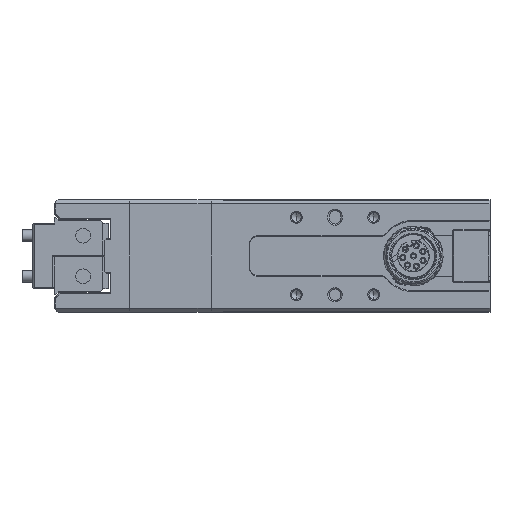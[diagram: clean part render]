
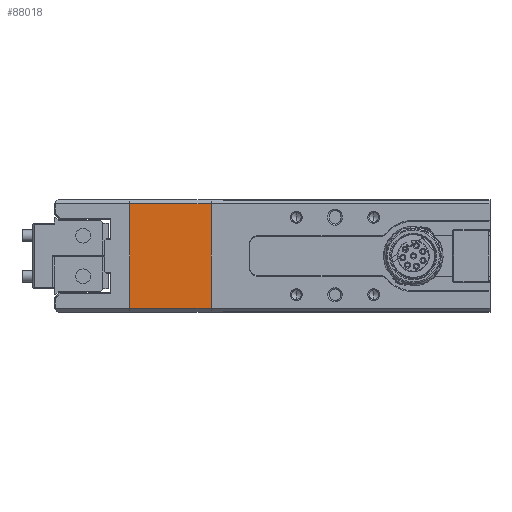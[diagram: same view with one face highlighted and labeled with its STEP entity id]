
A CAD part, left-side view. The second image highlights one B-rep face of the part: STEP entity #88018.
In plain terms, the highlighted planar face has unit normal (-1, 0, 0).
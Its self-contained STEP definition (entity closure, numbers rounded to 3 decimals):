
#2039 = FACE_OUTER_BOUND ( 'NONE', #27720, .T. ) ;
#2210 = VERTEX_POINT ( 'NONE', #51136 ) ;
#3247 = VERTEX_POINT ( 'NONE', #29796 ) ;
#6072 = AXIS2_PLACEMENT_3D ( 'NONE', #45470, #60550, #53208 ) ;
#6825 = LINE ( 'NONE', #44326, #58228 ) ;
#7951 = VERTEX_POINT ( 'NONE', #64464 ) ;
#9183 = CARTESIAN_POINT ( 'NONE',  ( -51.07, 71.477, -13.5 ) ) ;
#13696 = ORIENTED_EDGE ( 'NONE', *, *, #81281, .T. ) ;
#13761 = CARTESIAN_POINT ( 'NONE',  ( -51.07, 71.477, -12. ) ) ;
#15667 = DIRECTION ( 'NONE',  ( 0., 0., 1. ) ) ;
#16897 = DIRECTION ( 'NONE',  ( 0., 0., 1. ) ) ;
#17714 = VERTEX_POINT ( 'NONE', #9183 ) ;
#20957 = DIRECTION ( 'NONE',  ( 0., 1., 0. ) ) ;
#22537 = VECTOR ( 'NONE', #16897, 1000. ) ;
#27720 = EDGE_LOOP ( 'NONE', ( #13696, #33790, #37966, #46813 ) ) ;
#29796 = CARTESIAN_POINT ( 'NONE',  ( -51.07, 50.477, 13.5 ) ) ;
#30404 = LINE ( 'NONE', #45538, #81782 ) ;
#32026 = EDGE_CURVE ( 'NONE', #2210, #3247, #53470, .T. ) ;
#33790 = ORIENTED_EDGE ( 'NONE', *, *, #32026, .T. ) ;
#37966 = ORIENTED_EDGE ( 'NONE', *, *, #89369, .T. ) ;
#39778 = EDGE_CURVE ( 'NONE', #17714, #7951, #58625, .T. ) ;
#44326 = CARTESIAN_POINT ( 'NONE',  ( -51.07, 62.977, 13.5 ) ) ;
#45470 = CARTESIAN_POINT ( 'NONE',  ( -51.07, 62.977, -13. ) ) ;
#45538 = CARTESIAN_POINT ( 'NONE',  ( -51.07, 62.977, -13.5 ) ) ;
#46813 = ORIENTED_EDGE ( 'NONE', *, *, #39778, .F. ) ;
#51136 = CARTESIAN_POINT ( 'NONE',  ( -51.07, 50.477, -13.5 ) ) ;
#53208 = DIRECTION ( 'NONE',  ( 0., 0., -1. ) ) ;
#53470 = LINE ( 'NONE', #69552, #22537 ) ;
#58228 = VECTOR ( 'NONE', #20957, 1000. ) ;
#58625 = LINE ( 'NONE', #13761, #59908 ) ;
#59908 = VECTOR ( 'NONE', #15667, 1000. ) ;
#60550 = DIRECTION ( 'NONE',  ( 1., 0., 0. ) ) ;
#64464 = CARTESIAN_POINT ( 'NONE',  ( -51.07, 71.477, 13.5 ) ) ;
#67942 = DIRECTION ( 'NONE',  ( 0., -1., 0. ) ) ;
#69552 = CARTESIAN_POINT ( 'NONE',  ( -51.07, 50.477, -13. ) ) ;
#75622 = PLANE ( 'NONE',  #6072 ) ;
#81281 = EDGE_CURVE ( 'NONE', #17714, #2210, #30404, .T. ) ;
#81782 = VECTOR ( 'NONE', #67942, 1000. ) ;
#88018 = ADVANCED_FACE ( 'NONE', ( #2039 ), #75622, .F. ) ;
#89369 = EDGE_CURVE ( 'NONE', #3247, #7951, #6825, .T. ) ;
